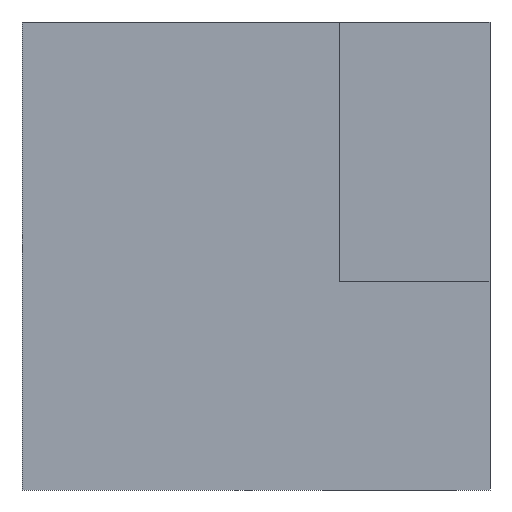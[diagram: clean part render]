
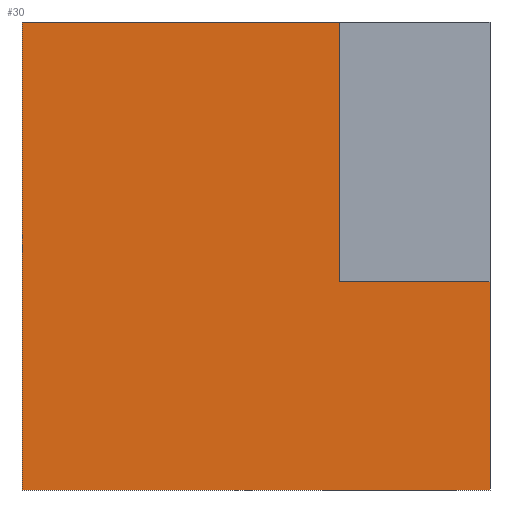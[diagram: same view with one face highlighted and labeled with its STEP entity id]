
A CAD part, front view. The second image highlights one B-rep face of the part: STEP entity #30.
In plain terms, the highlighted planar face has unit normal (0, -1, 0).
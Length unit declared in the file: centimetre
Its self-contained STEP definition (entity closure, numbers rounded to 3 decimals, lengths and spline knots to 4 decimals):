
#24 = EDGE_CURVE ( 'NONE', #307, #44, #415, .T. ) ;
#30 = ADVANCED_FACE ( 'NONE', ( #659 ), #524, .F. ) ;
#38 = DIRECTION ( 'NONE',  ( 0., 0., -1. ) ) ;
#44 = VERTEX_POINT ( 'NONE', #420 ) ;
#48 = LINE ( 'NONE', #713, #515 ) ;
#53 = DIRECTION ( 'NONE',  ( 0., 0., -1. ) ) ;
#54 = VERTEX_POINT ( 'NONE', #114 ) ;
#87 = ORIENTED_EDGE ( 'NONE', *, *, #237, .F. ) ;
#99 = ORIENTED_EDGE ( 'NONE', *, *, #116, .F. ) ;
#103 = ORIENTED_EDGE ( 'NONE', *, *, #24, .T. ) ;
#114 = CARTESIAN_POINT ( 'NONE',  ( 0., 0., 1000. ) ) ;
#116 = EDGE_CURVE ( 'NONE', #54, #496, #273, .T. ) ;
#152 = CARTESIAN_POINT ( 'NONE',  ( 1000., 0., 444.9222 ) ) ;
#163 = VECTOR ( 'NONE', #53, 100. ) ;
#172 = CARTESIAN_POINT ( 'NONE',  ( 678.6714, 0., 444.9222 ) ) ;
#173 = VERTEX_POINT ( 'NONE', #152 ) ;
#174 = LINE ( 'NONE', #418, #163 ) ;
#221 = CARTESIAN_POINT ( 'NONE',  ( 0., 0., 0. ) ) ;
#223 = CARTESIAN_POINT ( 'NONE',  ( 0., 0., 1000. ) ) ;
#224 = EDGE_CURVE ( 'NONE', #173, #44, #48, .T. ) ;
#234 = DIRECTION ( 'NONE',  ( 1., 0., 0. ) ) ;
#237 = EDGE_CURVE ( 'NONE', #429, #173, #413, .T. ) ;
#273 = LINE ( 'NONE', #449, #431 ) ;
#282 = EDGE_LOOP ( 'NONE', ( #87, #532, #99, #573, #103, #295 ) ) ;
#295 = ORIENTED_EDGE ( 'NONE', *, *, #224, .F. ) ;
#307 = VERTEX_POINT ( 'NONE', #221 ) ;
#322 = EDGE_CURVE ( 'NONE', #54, #307, #174, .T. ) ;
#356 = LINE ( 'NONE', #172, #705 ) ;
#363 = CARTESIAN_POINT ( 'NONE',  ( 0., 0., 0. ) ) ;
#413 = LINE ( 'NONE', #728, #702 ) ;
#415 = LINE ( 'NONE', #363, #738 ) ;
#418 = CARTESIAN_POINT ( 'NONE',  ( 0., 0., 1000. ) ) ;
#420 = CARTESIAN_POINT ( 'NONE',  ( 1000., 0., 0. ) ) ;
#429 = VERTEX_POINT ( 'NONE', #638 ) ;
#431 = VECTOR ( 'NONE', #763, 100. ) ;
#449 = CARTESIAN_POINT ( 'NONE',  ( 0., 0., 1000. ) ) ;
#465 = DIRECTION ( 'NONE',  ( 0., 0., 1. ) ) ;
#475 = DIRECTION ( 'NONE',  ( 0., 1., 0. ) ) ;
#487 = CARTESIAN_POINT ( 'NONE',  ( 678.6714, 0., 1000. ) ) ;
#496 = VERTEX_POINT ( 'NONE', #487 ) ;
#514 = AXIS2_PLACEMENT_3D ( 'NONE', #223, #475, #465 ) ;
#515 = VECTOR ( 'NONE', #38, 100. ) ;
#524 = PLANE ( 'NONE',  #514 ) ;
#532 = ORIENTED_EDGE ( 'NONE', *, *, #649, .T. ) ;
#573 = ORIENTED_EDGE ( 'NONE', *, *, #322, .T. ) ;
#589 = DIRECTION ( 'NONE',  ( 0., 0., 1. ) ) ;
#638 = CARTESIAN_POINT ( 'NONE',  ( 678.6714, 0., 444.9222 ) ) ;
#649 = EDGE_CURVE ( 'NONE', #429, #496, #356, .T. ) ;
#657 = DIRECTION ( 'NONE',  ( 1., 0., 0. ) ) ;
#659 = FACE_OUTER_BOUND ( 'NONE', #282, .T. ) ;
#702 = VECTOR ( 'NONE', #657, 100. ) ;
#705 = VECTOR ( 'NONE', #589, 100. ) ;
#713 = CARTESIAN_POINT ( 'NONE',  ( 1000., 0., 1000. ) ) ;
#728 = CARTESIAN_POINT ( 'NONE',  ( 678.6714, 0., 444.9222 ) ) ;
#738 = VECTOR ( 'NONE', #234, 100. ) ;
#763 = DIRECTION ( 'NONE',  ( 1., 0., 0. ) ) ;
